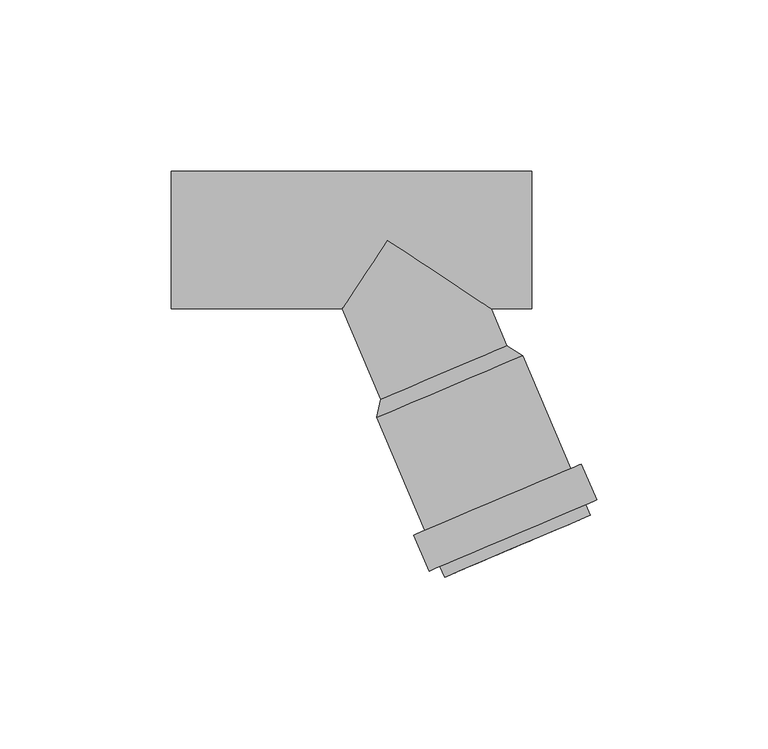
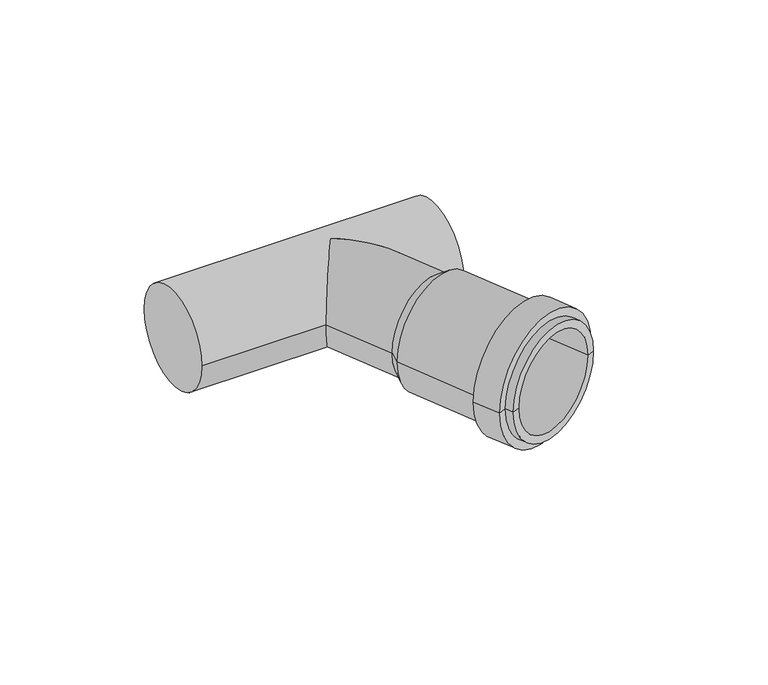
"""IFC4 building model written with IfcOpenShell, lengths in millimetres: pipe fitting geometry, pf_HTEA : pf_HTEA."""

from ifc_helpers import new_model, si_unit, frame, origin, place, context, project, spatial, polyline, circle_curve, ellipse_curve, source, transform, mapped, element, save
from ifc_brep_helpers import plane_surface, cylinder_surface, revolved_surface, advanced_brep


def pipe_fitting_c82004ce(model_context):
    return source(origin(), model_context, "Body", "AdvancedBrep", [
        advanced_brep(
        [(-1.9993897, -46.4758264, 0.0), (34.8208045, -30.8465813, 0.0), (39.3935865, -33.6855361, 0.0), (-3.1337378, -51.7373143, 0.0), (16.4107074, -38.6612038, 0.0), (16.6372573, -98.3148599, 0.0), (59.1645816, -80.2630817, 0.0), (56.3110165, -81.4743482, 0.0), (19.4908224, -97.1035934, 0.0), (15.3087715, -95.1851434, 0.0), (57.8360957, -77.1333652, 0.0), (12.179055, -96.5136292, 0.0), (60.9658122, -75.8048794, 0.0), (7.7247201, -86.0198739, 0.0), (56.5114774, -65.311124, 0.0), (10.8544366, -84.691388, 0.0), (53.3817609, -66.6396099, 0.0), (-0.2801727, -50.5260478, 0.0), (36.5400214, -34.8968026, 0.0), (18.1299244, -42.7114252, 0.0)],
        [
            (0, 1, circle_curve(frame((16.4107074, -38.6612038, 0.0), z_axis=(0.39073112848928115, -0.9205048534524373, 0.0), x_axis=(0.9205048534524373, 0.39073112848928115, 0.0)), 20.0)),
            (1, 2),
            (2, 3, circle_curve(frame((18.1299244, -42.7114252, 0.0), z_axis=(-0.39073112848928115, 0.9205048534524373, 0.0), x_axis=(0.9205048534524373, 0.39073112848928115, 0.0)), 23.1)),
            (3, 0),
            (1, 0, circle_curve(frame((16.4107074, -38.6612038, 0.0), z_axis=(0.39073112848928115, -0.9205048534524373, 0.0), x_axis=(0.9205048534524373, 0.39073112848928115, 0.0)), 20.0)),
            (3, 2, circle_curve(frame((18.1299244, -42.7114252, 0.0), z_axis=(-0.39073112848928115, 0.9205048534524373, 0.0), x_axis=(0.9205048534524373, 0.39073112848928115, 0.0)), 23.1)),
            (4, 1),
            (0, 4),
            (5, 6, circle_curve(frame((37.9009195, -89.2889708, 0.0), z_axis=(0.39073112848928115, -0.9205048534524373, 0.0), x_axis=(0.9205048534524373, 0.39073112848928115, 0.0)), 23.1)),
            (6, 7),
            (7, 8, circle_curve(frame((37.9009195, -89.2889708, 0.0), z_axis=(-0.39073112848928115, 0.9205048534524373, 0.0), x_axis=(0.9205048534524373, 0.39073112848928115, 0.0)), 20.0)),
            (8, 5),
            (6, 5, circle_curve(frame((37.9009195, -89.2889708, 0.0), z_axis=(0.39073112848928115, -0.9205048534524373, 0.0), x_axis=(0.9205048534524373, 0.39073112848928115, 0.0)), 23.1)),
            (8, 7, circle_curve(frame((37.9009195, -89.2889708, 0.0), z_axis=(-0.39073112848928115, 0.9205048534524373, 0.0), x_axis=(0.9205048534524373, 0.39073112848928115, 0.0)), 20.0)),
            (9, 10, circle_curve(frame((36.5724336, -86.1592543, 0.0), z_axis=(0.39073112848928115, -0.9205048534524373, 0.0), x_axis=(0.9205048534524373, 0.39073112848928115, 0.0)), 23.1)),
            (10, 6),
            (5, 9),
            (10, 9, circle_curve(frame((36.5724336, -86.1592543, 0.0), z_axis=(0.39073112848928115, -0.9205048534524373, 0.0), x_axis=(0.9205048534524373, 0.39073112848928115, 0.0)), 23.1)),
            (11, 12, circle_curve(frame((36.5724336, -86.1592543, 0.0), z_axis=(0.39073112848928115, -0.9205048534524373, 0.0), x_axis=(0.9205048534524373, 0.39073112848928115, 0.0)), 26.5)),
            (12, 10),
            (9, 11),
            (12, 11, circle_curve(frame((36.5724336, -86.1592543, 0.0), z_axis=(0.39073112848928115, -0.9205048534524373, 0.0), x_axis=(0.9205048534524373, 0.39073112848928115, 0.0)), 26.5)),
            (13, 14, circle_curve(frame((32.1180988, -75.665499, 0.0), z_axis=(0.39073112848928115, -0.9205048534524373, 0.0), x_axis=(0.9205048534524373, 0.39073112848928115, 0.0)), 26.5)),
            (14, 12),
            (11, 13),
            (14, 13, circle_curve(frame((32.1180988, -75.665499, 0.0), z_axis=(0.39073112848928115, -0.9205048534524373, 0.0), x_axis=(0.9205048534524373, 0.39073112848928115, 0.0)), 26.5)),
            (15, 16, circle_curve(frame((32.1180988, -75.665499, 0.0), z_axis=(0.39073112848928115, -0.9205048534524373, 0.0), x_axis=(0.9205048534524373, 0.39073112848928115, 0.0)), 23.1)),
            (16, 14),
            (13, 15),
            (16, 15, circle_curve(frame((32.1180988, -75.665499, 0.0), z_axis=(0.39073112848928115, -0.9205048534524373, 0.0), x_axis=(0.9205048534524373, 0.39073112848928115, 0.0)), 23.1)),
            (2, 16),
            (15, 3),
            (17, 18, circle_curve(frame((18.1299244, -42.7114252, 0.0), z_axis=(0.39073112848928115, -0.9205048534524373, 0.0), x_axis=(0.9205048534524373, 0.39073112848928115, 0.0)), 20.0)),
            (18, 19),
            (19, 17),
            (18, 17, circle_curve(frame((18.1299244, -42.7114252, 0.0), z_axis=(0.39073112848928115, -0.9205048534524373, 0.0), x_axis=(0.9205048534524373, 0.39073112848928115, 0.0)), 20.0)),
            (7, 18),
            (17, 8),
        ],
        [
            revolved_surface(polyline([(39.3935865, -33.6855361, 0.0), (34.8208045, -30.8465813, 0.0)]), (16.4107074, -38.6612038, 0.0), (-0.39073112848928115, 0.9205048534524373, 0.0)),
            plane_surface(frame((16.4107074, -38.6612038, 0.0), z_axis=(-0.39073112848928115, 0.9205048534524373, 0.0), x_axis=(0.9205048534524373, 0.39073112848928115, 0.0))),
            plane_surface(frame((37.9009195, -89.2889708, 0.0), z_axis=(0.39073112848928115, -0.9205048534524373, 0.0), x_axis=(0.9205048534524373, 0.39073112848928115, 0.0))),
            cylinder_surface(frame((16.4107074, -38.6612038, 0.0), z_axis=(-0.39073112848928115, 0.9205048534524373, 0.0), x_axis=(0.9205048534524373, 0.39073112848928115, 0.0)), 23.1),
            plane_surface(frame((36.5724336, -86.1592543, 0.0), z_axis=(0.39073112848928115, -0.9205048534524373, 0.0), x_axis=(0.9205048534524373, 0.39073112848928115, 0.0))),
            cylinder_surface(frame((16.4107074, -38.6612038, 0.0), z_axis=(-0.39073112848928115, 0.9205048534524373, 0.0), x_axis=(0.9205048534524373, 0.39073112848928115, 0.0)), 26.5),
            plane_surface(frame((32.1180988, -75.665499, 0.0), z_axis=(-0.39073112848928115, 0.9205048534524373, 0.0), x_axis=(0.9205048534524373, 0.39073112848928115, 0.0))),
            plane_surface(frame((18.1299244, -42.7114252, 0.0), z_axis=(0.39073112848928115, -0.9205048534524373, 0.0), x_axis=(0.9205048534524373, 0.39073112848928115, 0.0))),
            revolved_surface(polyline([(36.54002143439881, -34.896802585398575, 0.0), (56.31101656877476, -81.47434824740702, 0.0)]), (16.4107074, -38.6612038, 0.0), (-0.39073112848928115, 0.9205048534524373, 0.0)),
        ],
        [
            (0, [[1, 2, 3, 4]]),
            (0, [[5, -4, 6, -2]]),
            (1, [[7, -1, 8]]),
            (1, [[-8, -5, -7]]),
            (2, [[9, 10, 11, 12]]),
            (2, [[13, -12, 14, -10]]),
            (3, [[15, 16, -9, 17]]),
            (3, [[18, -17, -13, -16]]),
            (4, [[19, 20, -15, 21]]),
            (4, [[22, -21, -18, -20]]),
            (5, [[23, 24, -19, 25]]),
            (5, [[26, -25, -22, -24]]),
            (6, [[27, 28, -23, 29]]),
            (6, [[30, -29, -26, -28]]),
            (3, [[-3, 31, -27, 32]]),
            (3, [[-6, -32, -30, -31]]),
            (7, [[33, 34, 35]]),
            (7, [[36, -35, -34]]),
            (8, [[-11, 37, -33, 38]]),
            (8, [[-14, -38, -36, -37]]),
        ],
    ),
        advanced_brep(
        [(-1.9993897, -46.4758264, 0.0), (34.8208045, -30.8465813, 0.0), (-63.0, -20.0, 0.0), (-63.0, 20.0, 0.0), (42.0, -20.0, 0.0), (42.0, 20.0, 0.0), (-13.2377112, -20.0, 0.0), (0.0, 0.0, 20.0), (30.2167039, -20.0, 0.0), (0.0, 0.0, -20.0)],
        [
            (0, 1, circle_curve(frame((16.4107074, -38.6612038, 0.0), z_axis=(0.39073112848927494, -0.9205048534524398, 0.0), x_axis=(0.9205048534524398, 0.39073112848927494, 0.0)), 20.0)),
            (1, 0, circle_curve(frame((16.4107074, -38.6612038, 0.0), z_axis=(0.39073112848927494, -0.9205048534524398, 0.0), x_axis=(0.9205048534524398, 0.39073112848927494, 0.0)), 20.0)),
            (2, 3, circle_curve(frame((-63.0, 0.0, 0.0), z_axis=(-1.0, 0.0, 0.0), x_axis=(0.0, 1.0, 0.0)), 20.0)),
            (3, 2, circle_curve(frame((-63.0, 0.0, 0.0), z_axis=(-1.0, 0.0, 0.0), x_axis=(0.0, 1.0, 0.0)), 20.0)),
            (4, 5, circle_curve(frame((42.0, 0.0, 0.0), z_axis=(1.0, 0.0, 0.0), x_axis=(0.0, 1.0, 0.0)), 20.0)),
            (5, 4, circle_curve(frame((42.0, 0.0, 0.0), z_axis=(1.0, 0.0, 0.0), x_axis=(0.0, 1.0, 0.0)), 20.0)),
            (2, 6),
            (6, 7, ellipse_curve(frame((0.0, 0.0, 0.0), z_axis=(-0.8338858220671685, 0.5519369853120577, 0.0), x_axis=(-0.5519369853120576, -0.8338858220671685, 0.0)), 23.9840989, 20.0)),
            (7, 8, ellipse_curve(frame((0.0, 0.0, 0.0), z_axis=(0.5519369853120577, 0.8338858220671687, 0.0), x_axis=(-0.8338858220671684, 0.5519369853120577, 0.0)), 36.2360207, 20.0)),
            (8, 4),
            (5, 3),
            (8, 9, ellipse_curve(frame((0.0, 0.0, 0.0), z_axis=(0.5519369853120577, 0.8338858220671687, 0.0), x_axis=(-0.8338858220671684, 0.5519369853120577, 0.0)), 36.2360207, 20.0)),
            (9, 6, ellipse_curve(frame((0.0, 0.0, 0.0), z_axis=(-0.8338858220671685, 0.5519369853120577, 0.0), x_axis=(-0.5519369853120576, -0.8338858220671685, 0.0)), 23.9840989, 20.0)),
            (1, 8),
            (6, 0),
        ],
        [
            plane_surface(frame((16.4107074, -38.6612038, 0.0), z_axis=(0.3907311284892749, -0.9205048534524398, 0.0), x_axis=(0.0, 0.0, 1.0))),
            plane_surface(frame((-63.0, 0.0, 0.0), z_axis=(-1.0, 0.0, 0.0), x_axis=(0.0, 0.0, 1.0))),
            plane_surface(frame((42.0, 0.0, 0.0), z_axis=(1.0, 0.0, 0.0), x_axis=(0.0, 0.0, 1.0))),
            cylinder_surface(frame((-63.0, 0.0, 0.0), z_axis=(-1.0, 0.0, 0.0), x_axis=(0.0, 1.0, 0.0)), 20.0),
            cylinder_surface(frame((0.0, 0.0, 0.0), z_axis=(-0.39073112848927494, 0.9205048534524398, 0.0), x_axis=(0.9205048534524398, 0.39073112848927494, 0.0)), 20.0),
        ],
        [
            (0, [[1, 2]]),
            (1, [[3, 4]]),
            (2, [[5, 6]]),
            (3, [[-3, 7, 8, 9, 10, -6, 11]]),
            (3, [[-4, -11, -5, -10, 12, 13, -7]]),
            (4, [[-2, 14, -9, -8, 15]]),
            (4, [[-1, -15, -13, -12, -14]]),
        ],
    ),
    ])


if __name__ == "__main__":
    model = new_model("IFC4")
    model_context = context("Model", 3, world=origin())
    ifc_project = project(units=[si_unit("LENGTHUNIT", "METRE", prefix="MILLI")], contexts=[model_context])
    site = spatial("IfcSite", under=ifc_project)
    building = spatial("IfcBuilding", under=site)
    placement = place(None, origin())
    pipe_fitting_shape = pipe_fitting_c82004ce(model_context)
    element("IfcPipeFitting", 1, ObjectType="pf_HTEA : pf_HTEA", at=placement, inside=building, context=model_context, shape_type="MappedRepresentation", body=[
        mapped(pipe_fitting_shape, transform((0.0, 0.0, 0.0), x_axis=(1.0, 0.0, 0.0), y_axis=(0.0, 1.0, 0.0), z_axis=(0.0, 0.0, 1.0))),
    ])
    save(model, "model.ifc")
